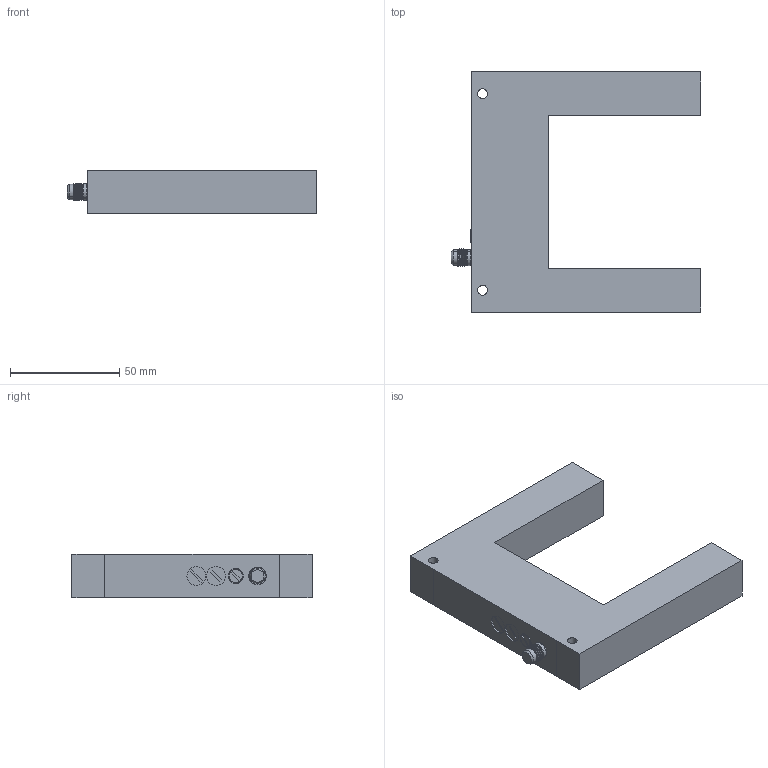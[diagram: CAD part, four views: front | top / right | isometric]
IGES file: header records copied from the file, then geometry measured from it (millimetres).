
Start section: IMSI TurboCAD v14.0
Global section: author: NULL; organization: NULL; date: 20200901.115715; units: millimetre
Bounding box: 114.42 x 110 x 20 mm (x, y, z)
Surface area: 25596.9 mm2 (no closed solid volume)
Topology: 0 solids, 0 shells, 86 faces, 417 edges, 417 vertices
Faces by surface type: revolution 44, extrusion 40, bspline 2
